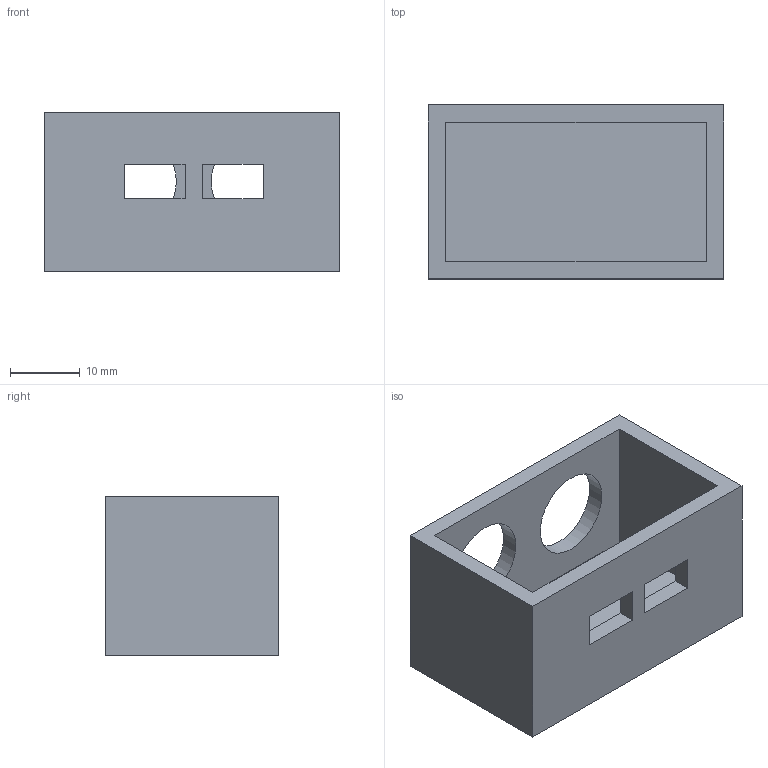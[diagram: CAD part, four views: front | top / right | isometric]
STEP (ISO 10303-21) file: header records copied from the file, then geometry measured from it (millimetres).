
FILE_DESCRIPTION(('FreeCAD Model'),'2;1');
FILE_NAME( '/home/mike/Documents/3D/FreeCAD/CNC/STEP/CabelBoxUniversal.step', '2017-05-26T18:20:12',('Author'),(''), 'Open CASCADE STEP processor 6.7','FreeCAD','Unknown');
FILE_SCHEMA(('AUTOMOTIVE_DESIGN_CC2 { 1 2 10303 214 -1 1 5 4 }'));
Length unit declared in the file: millimetre
Products named in the file (1): CabelBox
Bounding box: 42.5 x 25 x 23 mm (x, y, z)
Volume: 8605.2 mm3; surface area: 7198 mm2
Topology: 1 solids, 1 shells, 21 faces, 54 edges, 36 vertices
Faces by surface type: plane 19, cylinder 2
Full cylindrical faces by diameter (mm): 12.5 x2
Entity records: 1359 total; most frequent: CARTESIAN_POINT 268, DIRECTION 182, LINE 130, VECTOR 130, ORIENTED_EDGE 108, PCURVE 108, DEFINITIONAL_REPRESENTATION 108, EDGE_CURVE 54
